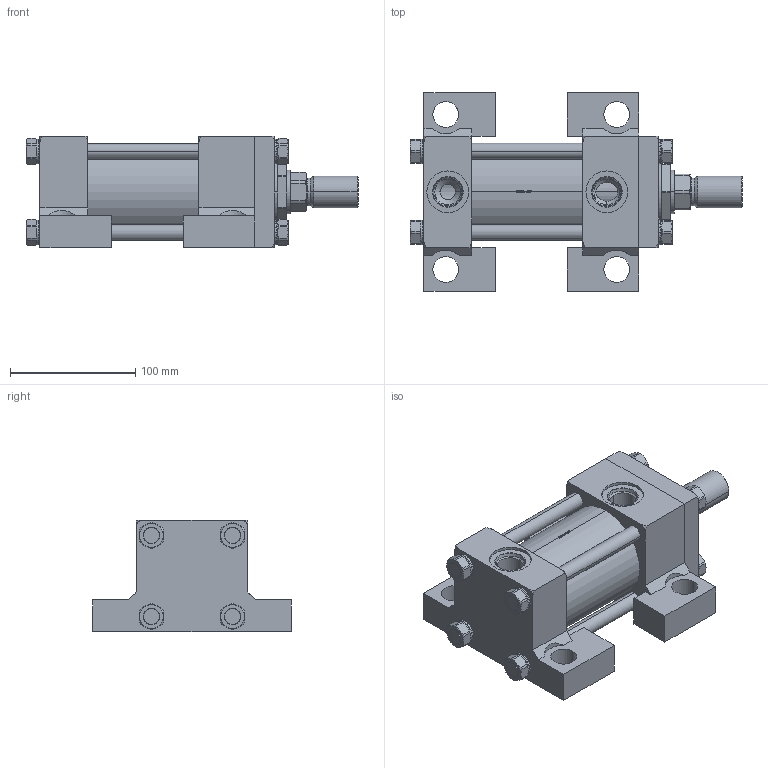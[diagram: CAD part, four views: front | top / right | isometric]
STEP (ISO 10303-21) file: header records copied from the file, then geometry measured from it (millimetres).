
FILE_DESCRIPTION (( 'STEP AP214' ), '1' );
FILE_NAME ('2.50C2HHNAT134A2.000.step', '2026-03-26T21:12:22', ( '' ), ( '' ), 'SwSTEP 2.0', 'SolidWorks 2023', '' );
FILE_SCHEMA (( 'AUTOMOTIVE_DESIGN' ));
Length unit declared in the file: inch
Products named in the file (1): 2.50C2HHNAT134A2.000
Bounding box: 265.11 x 158.75 x 88.9 mm (x, y, z)
Volume: 1296819 mm3; surface area: 285850.8 mm2
Topology: 46 solids, 46 shells, 1236 faces, 3186 edges, 2050 vertices
Faces by surface type: plane 804, cylinder 223, cone 163, bspline 38, torus 8
Entity records: 55833 total; most frequent: CARTESIAN_POINT 10982, ORIENTED_EDGE 6372, DIRECTION 5214, EDGE_CURVE 3186, VERTEX_POINT 2050, AXIS2_PLACEMENT_3D 1767, VECTOR 1680, LINE 1680
